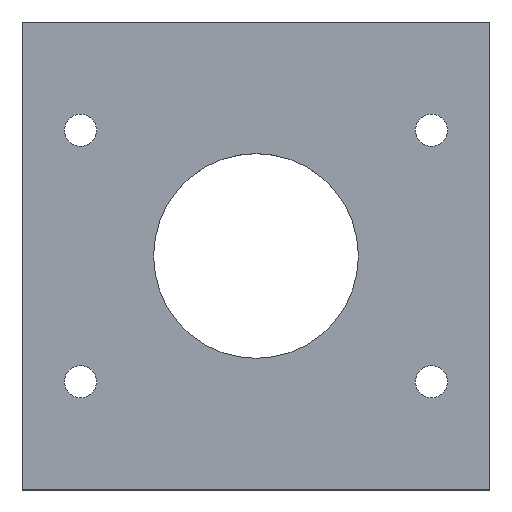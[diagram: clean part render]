
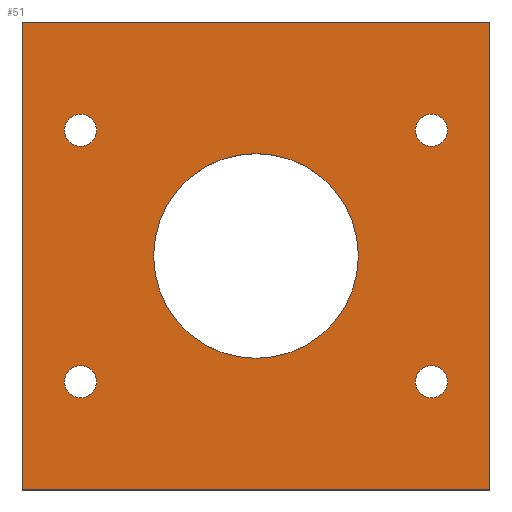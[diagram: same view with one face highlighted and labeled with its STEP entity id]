
A CAD part, top view. The second image highlights one B-rep face of the part: STEP entity #51.
In plain terms, the highlighted planar face has unit normal (0, 0, 1).
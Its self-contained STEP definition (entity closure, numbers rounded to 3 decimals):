
#51=ADVANCED_FACE('',(#106,#107,#108,#109,#110,#111),#112,.T.);
#106=FACE_BOUND('',#161,.T.);
#107=FACE_BOUND('',#162,.T.);
#108=FACE_BOUND('',#163,.T.);
#109=FACE_BOUND('',#164,.T.);
#110=FACE_BOUND('',#165,.T.);
#111=FACE_OUTER_BOUND('',#166,.T.);
#112=PLANE('',#167);
#161=EDGE_LOOP('',(#241));
#162=EDGE_LOOP('',(#242));
#163=EDGE_LOOP('',(#243));
#164=EDGE_LOOP('',(#244));
#165=EDGE_LOOP('',(#245));
#166=EDGE_LOOP('',(#246,#247,#248,#249));
#167=AXIS2_PLACEMENT_3D('',#250,#251,#252);
#241=ORIENTED_EDGE('',*,*,#294,.F.);
#242=ORIENTED_EDGE('',*,*,#295,.F.);
#243=ORIENTED_EDGE('',*,*,#266,.T.);
#244=ORIENTED_EDGE('',*,*,#278,.T.);
#245=ORIENTED_EDGE('',*,*,#280,.T.);
#246=ORIENTED_EDGE('',*,*,#282,.T.);
#247=ORIENTED_EDGE('',*,*,#286,.T.);
#248=ORIENTED_EDGE('',*,*,#292,.T.);
#249=ORIENTED_EDGE('',*,*,#289,.T.);
#250=CARTESIAN_POINT('',(-40.0,-40.0,0.0));
#251=DIRECTION('',(0.0,0.0,1.0));
#252=DIRECTION('',(0.0,-1.0,0.0));
#266=EDGE_CURVE('',#299,#299,#300,.T.);
#278=EDGE_CURVE('',#321,#321,#322,.T.);
#280=EDGE_CURVE('',#324,#324,#325,.T.);
#282=EDGE_CURVE('',#327,#328,#329,.T.);
#286=EDGE_CURVE('',#328,#333,#334,.T.);
#289=EDGE_CURVE('',#337,#327,#338,.T.);
#292=EDGE_CURVE('',#333,#337,#341,.T.);
#294=EDGE_CURVE('',#343,#343,#344,.T.);
#295=EDGE_CURVE('',#345,#345,#346,.T.);
#299=VERTEX_POINT('',#350);
#300=CIRCLE('',#351,2.75);
#321=VERTEX_POINT('',#376);
#322=CIRCLE('',#377,2.75);
#324=VERTEX_POINT('',#379);
#325=CIRCLE('',#380,17.5);
#327=VERTEX_POINT('',#382);
#328=VERTEX_POINT('',#383);
#329=LINE('',#384,#385);
#333=VERTEX_POINT('',#391);
#334=LINE('',#392,#393);
#337=VERTEX_POINT('',#397);
#338=LINE('',#398,#399);
#341=LINE('',#403,#404);
#343=VERTEX_POINT('',#406);
#344=CIRCLE('',#407,2.75);
#345=VERTEX_POINT('',#408);
#346=CIRCLE('',#409,2.75);
#350=CARTESIAN_POINT('',(27.25,-21.5,0.0));
#351=AXIS2_PLACEMENT_3D('',#412,#413,#414);
#376=CARTESIAN_POINT('',(-27.25,21.5,0.0));
#377=AXIS2_PLACEMENT_3D('',#434,#435,#436);
#379=CARTESIAN_POINT('',(17.5,0.0,0.0));
#380=AXIS2_PLACEMENT_3D('',#437,#438,#439);
#382=CARTESIAN_POINT('',(-40.0,40.0,0.0));
#383=CARTESIAN_POINT('',(-40.0,-40.0,0.0));
#384=CARTESIAN_POINT('',(-40.0,40.0,0.0));
#385=VECTOR('',#440,1.0);
#391=CARTESIAN_POINT('',(40.0,-40.0,0.0));
#392=CARTESIAN_POINT('',(-40.0,-40.0,0.0));
#393=VECTOR('',#443,1.0);
#397=CARTESIAN_POINT('',(40.0,40.0,0.0));
#398=CARTESIAN_POINT('',(40.0,40.0,0.0));
#399=VECTOR('',#445,1.0);
#403=CARTESIAN_POINT('',(40.0,-40.0,0.0));
#404=VECTOR('',#447,1.0);
#406=CARTESIAN_POINT('',(27.25,21.5,0.0));
#407=AXIS2_PLACEMENT_3D('',#448,#449,#450);
#408=CARTESIAN_POINT('',(-27.25,-21.5,0.0));
#409=AXIS2_PLACEMENT_3D('',#451,#452,#453);
#412=CARTESIAN_POINT('',(30.0,-21.5,0.0));
#413=DIRECTION('',(0.0,0.0,-1.0));
#414=DIRECTION('',(-1.0,0.0,0.0));
#434=CARTESIAN_POINT('',(-30.0,21.5,0.0));
#435=DIRECTION('',(0.0,0.0,-1.0));
#436=DIRECTION('',(1.0,0.0,0.0));
#437=CARTESIAN_POINT('',(0.0,0.0,0.0));
#438=DIRECTION('',(0.0,0.0,-1.0));
#439=DIRECTION('',(1.0,0.0,0.0));
#440=DIRECTION('',(0.0,-1.0,0.0));
#443=DIRECTION('',(1.0,0.0,0.0));
#445=DIRECTION('',(-1.0,0.0,0.0));
#447=DIRECTION('',(0.0,1.0,0.0));
#448=CARTESIAN_POINT('',(30.0,21.5,0.0));
#449=DIRECTION('',(0.0,0.0,1.0));
#450=DIRECTION('',(-1.0,0.0,0.0));
#451=CARTESIAN_POINT('',(-30.0,-21.5,0.0));
#452=DIRECTION('',(0.0,0.0,1.0));
#453=DIRECTION('',(1.0,0.0,0.0));
